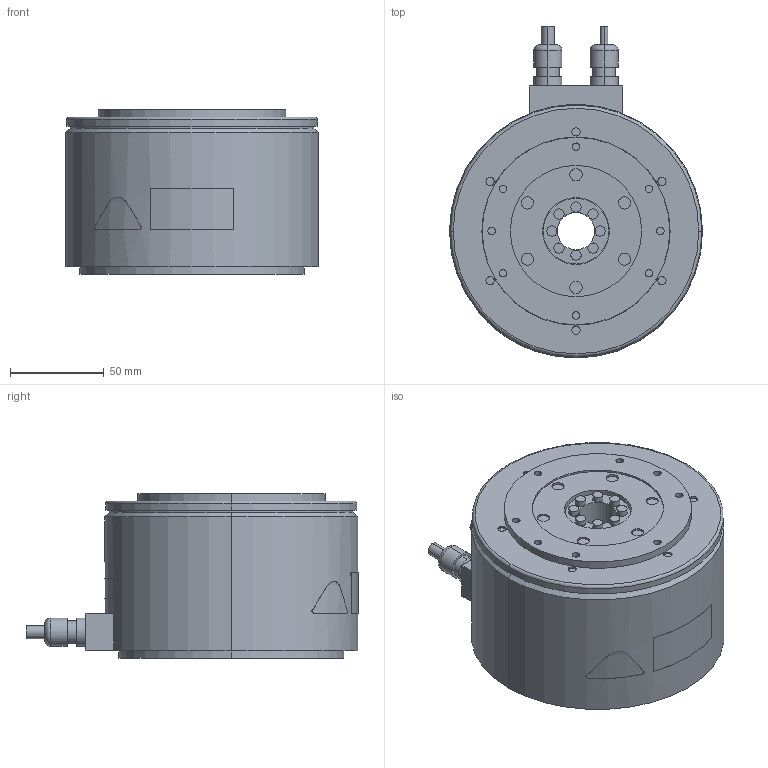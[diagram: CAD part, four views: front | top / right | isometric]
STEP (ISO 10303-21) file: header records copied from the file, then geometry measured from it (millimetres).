
FILE_DESCRIPTION (( 'STEP AP203' ), '1' );
FILE_NAME ('sgm7e_05b_a4_.STEP', '2016-06-02T07:33:28', ( '' ), ( '' ), 'SwSTEP 2.0', 'SolidWorks 2010', '' );
FILE_SCHEMA (( 'CONFIG_CONTROL_DESIGN' ));
Length unit declared in the file: millimetre
Products named in the file (1): sgm7e_05b_a4_
Bounding box: 135 x 177.1 x 88 mm (x, y, z)
Volume: 1202070.2 mm3; surface area: 78758.9 mm2
Topology: 1 solids, 1 shells, 228 faces, 468 edges, 308 vertices
Faces by surface type: cylinder 134, plane 79, torus 6, bspline 5, cone 4
Entity records: 6835 total; most frequent: CARTESIAN_POINT 1670, DIRECTION 1188, ORIENTED_EDGE 936, AXIS2_PLACEMENT_3D 512, EDGE_CURVE 468, VERTEX_POINT 308, EDGE_LOOP 296, CIRCLE 288
